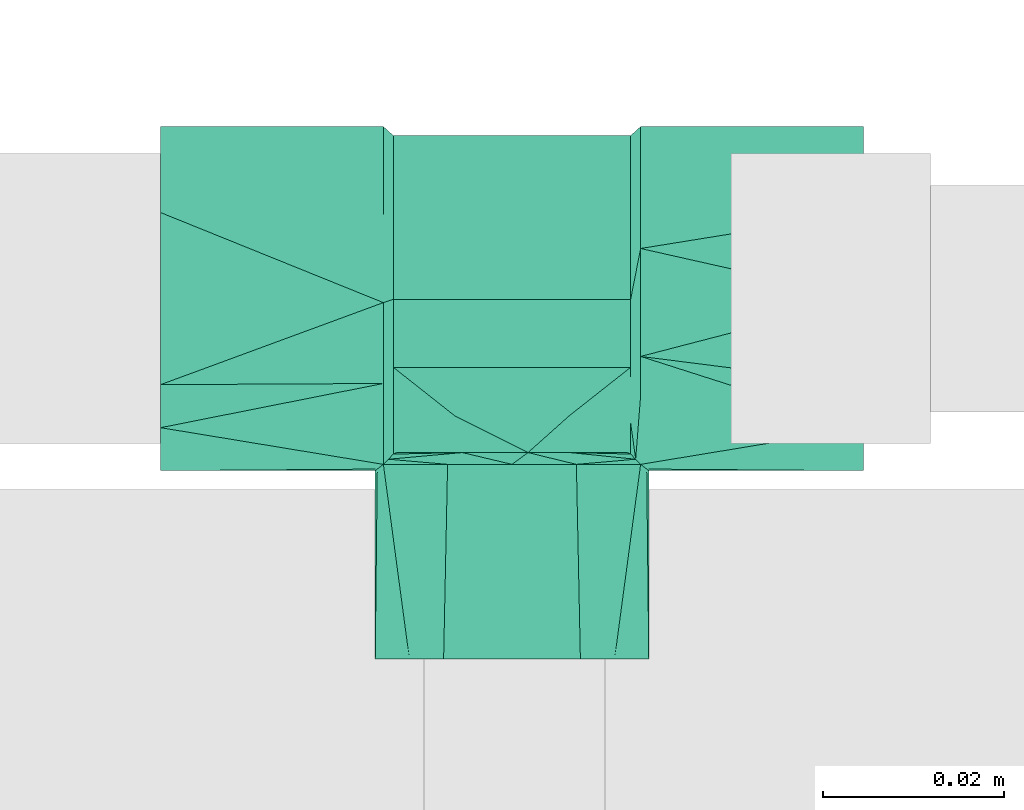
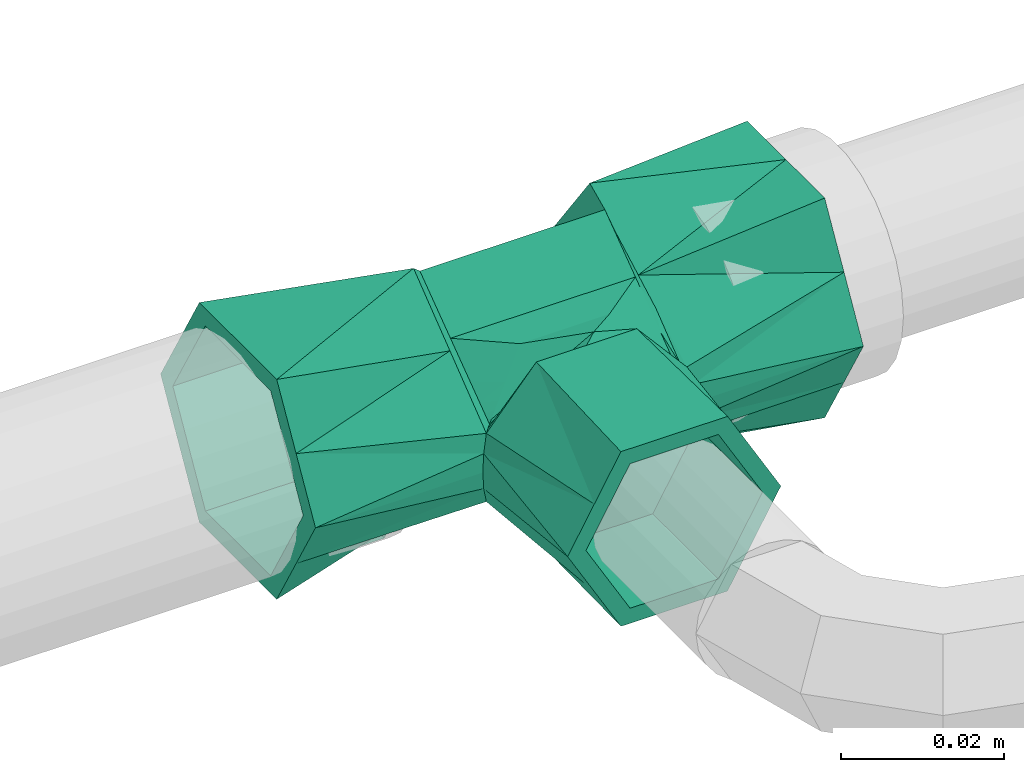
# One storey, part 138 of 166: 1 flow fitting.
"""IFC2X3 building model written with IfcOpenShell, lengths in metres."""

from ifc_helpers import new_model, entity, si_unit, converted_unit, direction, frame, origin, place, context, subcontext, project, spatial, faceted_brep, source, transform, mapped, material, type_object, type_shapes, element, save


model = new_model("IFC2X3")

# Units and contexts
model_context = context("Model", 3, precision=1e-05, world=origin(), true_north=direction((6.123233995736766e-17, 1.0)))
body_context = subcontext(model_context, "Body", "Model", "MODEL_VIEW")
ifc_project = project(units=[si_unit("LENGTHUNIT", "METRE"), converted_unit("PLANEANGLEUNIT", "DEGREE", entity("IfcPlaneAngleMeasure", 0.017453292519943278), si_unit("PLANEANGLEUNIT", "RADIAN"), dimensions=[0, 0, 0, 0, 0, 0, 0]), si_unit("AREAUNIT", "SQUARE_METRE")], contexts=[model_context])

# Site, building, storey
site_placement = place(None, origin())
site = spatial("IfcSite", under=ifc_project, at=site_placement, Name="Default", CompositionType="ELEMENT")
building_placement = place(site_placement, origin())
building = spatial("IfcBuilding", under=site, at=building_placement, Name="CASA DE ACOLHIDA PARA IDOSOS", CompositionType="ELEMENT")
storey_placement = place(building_placement, frame((0.0, 0.0, -1.7499999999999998)))
storey = spatial("IfcBuildingStorey", under=building, at=storey_placement, Name="IMPLANTAÇÃO DRENAGEM", CompositionType="ELEMENT", Elevation=-1.7499999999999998)

# Flow fitting
ifc_material = material(Name="PVC Branco")
pipe_fitting_type = type_object("IfcPipeFittingType", Name="AF_Roscavel_Te_Reducao:Standard", PredefinedType="NOTDEFINED", material=ifc_material)
shared_shape = source(origin(), body_context, "Body", "Brep", [
    faceted_brep([(-0.014199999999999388, 0.01563344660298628, -0.004544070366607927), (-0.014199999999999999, 0.018999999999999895, 0.0), (-0.0131, 0.01799999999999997, 0.0), (-0.014199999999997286, -0.01071379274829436, -0.009268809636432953), (-0.013099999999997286, -0.00862473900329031, -0.011707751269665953), (-0.01309999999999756, -0.012376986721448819, -0.008943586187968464), (-0.013099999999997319, -0.013728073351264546, -0.00794828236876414), (-0.01419999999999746, -0.0004246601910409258, -0.01490965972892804), (-0.01309999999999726, -0.004354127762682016, -0.014853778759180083), (-0.01419999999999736, -0.006383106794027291, -0.011643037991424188), (-0.013099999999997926, 0.004437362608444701, -0.013499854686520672), (-0.014199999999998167, 0.008900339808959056, -0.013632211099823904), (-0.013099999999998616, 0.008958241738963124, -0.008999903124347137), (-0.013099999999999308, 0.013479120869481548, -0.004499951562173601), (-0.01419999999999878, 0.01226689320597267, -0.009088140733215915), (-0.013653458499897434, -0.01773405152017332, -0.005279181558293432), (-0.013099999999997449, -0.014771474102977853, -0.007179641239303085), (-0.013099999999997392, -0.015968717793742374, -0.006297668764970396), (-0.013099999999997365, -0.016567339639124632, -0.005856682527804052), (-0.013099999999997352, -0.016866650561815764, -0.005636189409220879), (-0.013099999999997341, -0.017016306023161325, -0.005525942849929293), (-0.01309999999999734, -0.017165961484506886, -0.005415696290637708), (-0.014199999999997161, -0.018300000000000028, -0.005109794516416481), (-0.014199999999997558, 0.005533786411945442, -0.018176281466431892), (-0.013099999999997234, -8.35165220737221e-05, -0.017999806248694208), (-0.013099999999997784, -0.007588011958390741, -0.012471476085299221), (-0.013100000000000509, -0.0001668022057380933, 0.014208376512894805), (-0.014200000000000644, -0.004906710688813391, 0.015523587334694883), (-0.01310000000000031, -0.005833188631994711, 0.011277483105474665), (-0.014200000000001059, 0.014139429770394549, 0.0047487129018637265), (-0.013100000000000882, 0.011749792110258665, 0.00856963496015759), (-0.013100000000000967, 0.014874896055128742, 0.004284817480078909), (-0.01420000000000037, -0.009371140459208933, 0.012052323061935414), (-0.014200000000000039, -0.014747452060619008, 0.007872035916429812), (-0.013100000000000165, -0.009867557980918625, 0.009190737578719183), (-0.014200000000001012, 0.009278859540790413, 0.00949742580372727), (-0.014200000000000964, 0.004418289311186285, 0.014246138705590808), (-0.01310000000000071, 0.0054995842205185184, 0.01713926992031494), (-0.013100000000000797, 0.008624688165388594, 0.012854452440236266), (-0.013653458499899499, -0.017734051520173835, 0.005279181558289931), (-0.014200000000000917, -0.0004422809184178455, 0.018994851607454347), (-0.014199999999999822, -0.01830000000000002, 0.005109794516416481), (-0.013099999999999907, -0.01716596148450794, 0.0054156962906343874), (-0.013099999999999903, -0.01700710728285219, 0.005497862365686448), (-0.013099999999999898, -0.016848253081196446, 0.0055800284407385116), (-0.013099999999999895, -0.016530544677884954, 0.0057443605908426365), (-0.01309999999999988, -0.015895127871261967, 0.006073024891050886), (-0.01309999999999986, -0.014624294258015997, 0.006730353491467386), (-0.013099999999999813, -0.012082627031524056, 0.008045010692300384), (-0.013099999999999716, 0.010989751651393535, 0.009611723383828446), (-0.013099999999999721, -0.006999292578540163, 0.010674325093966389), (0.00953576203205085, -0.014962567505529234, 0.009221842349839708), (0.01113423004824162, -0.01598128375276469, 0.007568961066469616), (0.013100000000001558, -0.014624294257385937, 0.006730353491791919), (0.013100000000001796, -0.006999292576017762, 0.010674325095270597), (0.013100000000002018, -0.005833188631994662, 0.011277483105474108), (0.013100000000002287, -0.00016680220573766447, 0.01420837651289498), (0.013100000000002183, 0.005499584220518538, 0.017139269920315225), (0.0127326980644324, -0.017000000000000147, 0.005916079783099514), (0.012919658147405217, -0.017084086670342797, 0.005668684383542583), (0.01310000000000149, -0.01684825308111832, 0.0055800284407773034), (0.013100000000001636, -0.012082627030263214, 0.00804501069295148), (0.006338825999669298, -0.01292513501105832, 0.012527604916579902), (0.007625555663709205, -0.013745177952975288, 0.011197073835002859), (0.008912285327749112, -0.014565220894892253, 0.009866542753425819), (-0.011133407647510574, -0.015980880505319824, 0.007569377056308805), (-0.01082226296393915, -0.015782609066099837, 0.007891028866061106), (-0.009534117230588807, -0.014961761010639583, 0.009222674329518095), (-0.008911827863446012, -0.014565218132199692, 0.00986597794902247), (-0.006335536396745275, -0.0129235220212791, 0.012529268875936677), (-0.012977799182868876, -0.017110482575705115, 0.005587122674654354), (-0.012919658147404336, -0.017084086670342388, 0.005668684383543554), (0.013100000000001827, -0.00986755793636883, 0.00919073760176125), (-0.01273269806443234, -0.017000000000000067, 0.005916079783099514), (-0.011933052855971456, -0.016490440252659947, 0.00674272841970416), (0.0131000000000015, -0.01653054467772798, 0.005744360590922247), (0.011933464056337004, -0.016490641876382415, 0.006742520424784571), (0.013100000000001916, 0.008624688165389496, 0.012854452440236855), (0.013100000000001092, 0.011749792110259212, 0.00856963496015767), (0.013100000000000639, 0.014874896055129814, 0.0042848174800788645), (0.0131, 0.017999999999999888, 0.0), (0.012977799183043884, -0.01711048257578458, 0.005587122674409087), (0.01310000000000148, -0.017165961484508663, 0.005415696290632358), (0.013100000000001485, -0.017007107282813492, 0.005497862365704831), (0.01310000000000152, -0.0158951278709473, 0.006073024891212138), (0.01309999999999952, 0.012176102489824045, -0.005796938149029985), (0.013099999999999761, 0.008958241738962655, -0.008999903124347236), (0.013099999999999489, 0.006352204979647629, -0.011593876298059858), (0.013099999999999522, -8.351652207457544e-05, -0.01799980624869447), (-0.01291965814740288, -0.017084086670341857, -0.005668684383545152), (-0.012977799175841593, -0.017110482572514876, -0.005587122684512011), (0.013099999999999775, -0.007588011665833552, -0.012471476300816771), (0.0063388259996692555, -0.012925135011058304, -0.012527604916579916), (-0.006335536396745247, -0.01292352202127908, -0.012529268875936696), (0.013099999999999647, -0.005186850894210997, -0.014240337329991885), (-0.01273269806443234, -0.017000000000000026, -0.005916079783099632), (-0.011933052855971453, -0.01649044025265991, -0.006742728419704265), (0.009535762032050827, -0.014962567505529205, -0.009221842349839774), (0.013099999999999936, -0.012376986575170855, -0.008943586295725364), (0.013100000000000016, -0.014771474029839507, -0.007179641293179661), (0.013100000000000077, -0.016567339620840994, -0.005856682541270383), (0.0127326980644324, -0.017000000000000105, -0.005916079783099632), (0.011933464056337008, -0.01649064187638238, -0.006742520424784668), (0.008912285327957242, -0.01456522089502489, -0.009866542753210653), (0.013099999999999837, -0.010290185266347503, -0.010480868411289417), (0.012977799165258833, -0.017110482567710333, -0.005587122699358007), (0.012919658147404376, -0.017084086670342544, -0.005668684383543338), (0.013100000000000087, -0.016866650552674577, -0.005636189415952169), (0.01310000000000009, -0.017016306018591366, -0.005525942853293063), (0.013100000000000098, -0.01716596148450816, -0.0054156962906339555), (0.011134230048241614, -0.015981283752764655, -0.007568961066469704), (0.010822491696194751, -0.01578261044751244, -0.00789131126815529), (-0.007623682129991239, -0.01374437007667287, -0.011197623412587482), (-0.008911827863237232, -0.01456521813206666, -0.00986597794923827), (-0.009534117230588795, -0.014961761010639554, -0.009222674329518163), (-0.011133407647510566, -0.01598088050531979, -0.007569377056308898), (0.013100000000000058, -0.01596871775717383, -0.006297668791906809), (0.014200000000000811, 0.01226689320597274, 0.009088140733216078), (0.014200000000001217, 0.008900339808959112, 0.013632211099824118), (0.014200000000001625, 0.005533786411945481, 0.018176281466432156), (0.014200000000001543, -0.00312758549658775, 0.013427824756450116), (0.014200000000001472, -0.010713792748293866, 0.009268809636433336), (0.013653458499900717, -0.017734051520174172, 0.005279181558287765), (0.014200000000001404, -0.01829999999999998, 0.005109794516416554), (0.014199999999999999, 0.019, 0.0), (0.014200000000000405, 0.01563344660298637, 0.004544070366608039), (0.014200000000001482, -0.0063831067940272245, 0.011643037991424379), (0.014199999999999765, -0.00044228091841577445, -0.018994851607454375), (0.014199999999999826, -0.004906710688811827, -0.015523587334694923), (0.01419999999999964, 0.009278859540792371, -0.009497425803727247), (0.014199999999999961, -0.0147474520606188, -0.007872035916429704), (0.01420000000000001, -0.018299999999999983, -0.005109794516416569), (0.013653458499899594, -0.017734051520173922, -0.00527918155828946), (0.014199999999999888, -0.009371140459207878, -0.01205232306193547), (0.014199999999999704, 0.0044182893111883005, -0.01424613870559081), (0.014199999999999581, 0.014139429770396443, -0.004748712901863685), (-0.0388000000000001, -0.009500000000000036, -0.016454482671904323), (-0.0388000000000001, -0.016, 0.0), (-0.03879999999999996, -0.011857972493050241, -0.007174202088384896), (-0.0388000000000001, -0.014250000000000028, -0.008227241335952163), (-0.0388000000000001, -0.008000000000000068, -0.01385640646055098), (-0.0388000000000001, 0.0, -0.013856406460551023), (-0.0388000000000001, 0.007999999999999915, -0.013856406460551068), (-0.0388000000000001, 0.0, -0.01645448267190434), (-0.0388000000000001, -0.01900000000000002, 0.0), (-0.0388000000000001, -0.012000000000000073, 0.006928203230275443), (-0.0388000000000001, -0.008000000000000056, 0.013856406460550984), (-0.0388000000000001, -0.014249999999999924, 0.008227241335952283), (-0.0388000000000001, -0.00949999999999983, 0.01645448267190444), (-0.0388000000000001, 0.0, 0.013856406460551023), (-0.0388000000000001, 0.007999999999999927, 0.01385640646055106), (-0.0388000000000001, 0.0, 0.01645448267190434), (-0.0388000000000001, 0.009500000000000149, 0.016454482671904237), (-0.0388000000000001, 0.01549204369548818, 0.006075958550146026), (-0.0388000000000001, 0.01899999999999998, 0.0), (-0.03879999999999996, 0.01185797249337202, 0.007174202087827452), (-0.0388000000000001, 0.016, 0.0), (-0.0388000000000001, 0.014249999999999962, -0.0082272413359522), (-0.0388000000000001, 0.009499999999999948, -0.016454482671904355), (-0.0388000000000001, 0.011999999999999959, -0.006928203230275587), (-0.014872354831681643, -0.018819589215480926, 0.0026120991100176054), (-0.015099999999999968, -0.01900000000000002, 0.0), (0.0388000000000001, -0.019, 0.0), (0.014872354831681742, -0.018819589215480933, 0.0026120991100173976), (0.015100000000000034, -0.019, 0.0), (0.0388000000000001, 0.014249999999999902, 0.008227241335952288), (0.0388000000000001, 0.019, 0.0), (-0.014872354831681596, -0.018819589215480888, -0.0026120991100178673), (0.014872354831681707, -0.018819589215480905, -0.0026120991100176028), (0.0388000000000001, 0.015492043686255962, -0.006075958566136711), (0.0388000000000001, 0.009500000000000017, -0.016454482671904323), (0.0388000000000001, 0.015999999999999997, 0.0), (0.038800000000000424, 0.011857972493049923, -0.007174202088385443), (0.0388000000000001, 0.008000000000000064, -0.01385640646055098), (0.0388000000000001, 0.0, -0.013856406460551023), (0.0388000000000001, -0.007999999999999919, -0.013856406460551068), (0.0388000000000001, 0.0, -0.01645448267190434), (0.0388000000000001, 0.012000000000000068, 0.006928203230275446), (0.0388000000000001, 0.00800000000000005, 0.013856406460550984), (0.0388000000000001, 0.00949999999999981, 0.01645448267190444), (0.0388000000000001, 0.0, 0.013856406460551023), (0.0388000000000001, -0.00799999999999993, 0.01385640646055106), (0.0388000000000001, 0.0, 0.01645448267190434), (0.0388000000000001, -0.00950000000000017, 0.016454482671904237), (0.0388000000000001, -0.014250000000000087, 0.008227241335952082), (0.038800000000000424, -0.01185797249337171, 0.007174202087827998), (0.0388000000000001, -0.016000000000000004, 0.0), (0.0388000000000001, -0.014249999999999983, -0.008227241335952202), (0.0388000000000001, -0.009499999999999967, -0.016454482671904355), (0.0388000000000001, -0.011999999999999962, -0.006928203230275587), (-0.02269999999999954, -0.016, 0.0), (-0.02269999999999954, -0.01185797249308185, 0.0071742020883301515), (-0.02269999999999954, -0.008000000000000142, 0.013856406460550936), (-0.02269999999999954, 0.0, 0.013856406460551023), (-0.02269999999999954, 0.007999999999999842, 0.01385640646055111), (-0.02269999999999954, 0.01199999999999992, 0.006928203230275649), (-0.02269999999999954, 0.016, 0.0), (-0.02269999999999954, 0.011857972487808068, -0.007174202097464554), (-0.02269999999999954, 0.008000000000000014, -0.01385640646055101), (-0.022699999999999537, 0.0, -0.01385640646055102), (-0.02269999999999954, -0.007999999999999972, -0.013856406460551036), (-0.02269999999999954, -0.011999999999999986, -0.006928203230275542), (0.022700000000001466, -0.016000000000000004, 0.0), (0.022700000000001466, -0.011999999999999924, 0.006928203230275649), (0.022700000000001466, -0.007999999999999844, 0.01385640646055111), (0.022700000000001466, 0.0, 0.013856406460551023), (0.022700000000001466, 0.00800000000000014, 0.013856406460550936), (0.022700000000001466, 0.011857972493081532, 0.007174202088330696), (0.022700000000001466, 0.015999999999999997, 0.0), (0.022700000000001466, 0.011999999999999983, -0.006928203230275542), (0.022700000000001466, 0.00799999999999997, -0.013856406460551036), (0.022700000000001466, 0.0, -0.013856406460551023), (0.022700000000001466, -0.008000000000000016, -0.01385640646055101), (0.022700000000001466, -0.011857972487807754, -0.007174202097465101), (0.01250000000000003, -0.02369999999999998, 0.0), (0.006250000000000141, -0.023699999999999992, 0.010825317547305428), (-0.006249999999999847, -0.02370000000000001, 0.010825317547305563), (-0.012499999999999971, -0.023700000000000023, 0.0), (-0.006249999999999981, -0.02370000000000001, -0.010825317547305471), (0.006250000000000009, -0.023699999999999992, -0.01082531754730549), (0.012500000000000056, -0.03979999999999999, 0.0), (0.006250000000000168, -0.039799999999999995, 0.010825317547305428), (-0.00624999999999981, -0.039800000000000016, 0.01082531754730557), (-0.012499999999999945, -0.03980000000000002, 0.0), (-0.006249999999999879, -0.039800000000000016, -0.010825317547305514), (0.006250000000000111, -0.039799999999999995, -0.010825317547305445), (-0.0017679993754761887, -0.01700000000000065, -0.013928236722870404), (-0.006407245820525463, -0.017000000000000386, -0.010538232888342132), (0.009386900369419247, -0.01700000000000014, -0.007764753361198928), (0.006041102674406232, -0.017000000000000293, -0.009613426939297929), (0.005482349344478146, -0.017000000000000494, -0.009922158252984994), (0.0017662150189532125, -0.016999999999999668, 0.013928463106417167), (0.006407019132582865, -0.016999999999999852, 0.010537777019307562), (-0.009386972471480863, -0.01699999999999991, 0.007764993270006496), (-0.00604124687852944, -0.016999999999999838, 0.009613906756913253), (-0.005483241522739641, -0.01699999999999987, 0.009922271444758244), (1.2383427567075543e-06, -0.018300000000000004, 0.013321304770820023), (0.007111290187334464, -0.018299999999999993, 0.013320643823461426), (-0.007108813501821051, -0.018300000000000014, 0.013321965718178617), (1.2383427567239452e-06, -0.01830000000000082, -0.013321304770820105), (-0.007108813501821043, -0.018300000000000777, -0.013321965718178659), (0.007111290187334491, -0.018300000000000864, -0.01332064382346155), (0.007550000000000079, -0.039799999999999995, -0.013076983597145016), (0.011325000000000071, -0.03979999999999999, -0.00653849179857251), (0.0, -0.0398, -0.013076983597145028), (0.015100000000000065, -0.03979999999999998, 0.0), (0.011324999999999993, -0.03979999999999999, 0.006538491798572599), (0.007549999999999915, -0.039799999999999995, 0.01307698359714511), (0.0, -0.0398, 0.013076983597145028), (-0.007550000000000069, -0.039800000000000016, 0.013076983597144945), (-0.011325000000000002, -0.03980000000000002, 0.006538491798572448), (-0.015099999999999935, -0.03980000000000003, 0.0), (-0.011324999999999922, -0.03980000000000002, -0.006538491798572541), (-0.007549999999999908, -0.039800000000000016, -0.01307698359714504)], [[[0, 1, 2]], [[3, 4, 5, 6]], [[7, 8, 9]], [[10, 11, 12]], [[13, 14, 0]], [[15, 6, 16, 17, 18, 19, 20, 21]], [[4, 3, 9]], [[3, 6, 15]], [[0, 2, 13]], [[15, 22, 3]], [[23, 10, 24]], [[12, 14, 13]], [[8, 7, 24]], [[9, 8, 25, 4]], [[11, 10, 23]], [[11, 14, 12]], [[7, 23, 24]], [[26, 27, 28]], [[29, 30, 31]], [[31, 1, 29]], [[31, 2, 1]], [[27, 32, 28]], [[33, 34, 32]], [[29, 35, 30]], [[36, 37, 38]], [[34, 33, 39]], [[40, 37, 36]], [[33, 41, 39]], [[39, 42, 43, 44, 45, 46, 47, 48, 34]], [[35, 38, 49, 30]], [[26, 40, 27]], [[26, 37, 40]], [[36, 38, 35]], [[32, 34, 50, 28]], [[51, 52, 53]], [[50, 54, 55, 56, 57, 37, 26, 28]], [[58, 59, 60]], [[61, 62, 63, 64, 51]], [[47, 65, 66, 67]], [[48, 67, 68, 69]], [[69, 50, 34, 48]], [[70, 71, 44, 43, 42]], [[62, 61, 72, 54]], [[45, 73, 74]], [[50, 69, 54]], [[58, 75, 76]], [[73, 44, 71]], [[2, 31, 30, 49, 38, 37, 57, 77, 78, 79, 80]], [[45, 44, 73]], [[62, 54, 69]], [[60, 75, 58]], [[67, 48, 47]], [[59, 81, 82, 83, 60]], [[84, 76, 75]], [[65, 47, 46]], [[61, 51, 53]], [[46, 74, 65]], [[53, 52, 84]], [[45, 74, 46]], [[84, 52, 76]], [[12, 13, 2, 80, 85, 86, 87, 88, 24, 10]], [[89, 90, 21, 20, 19]], [[91, 92, 93]], [[93, 25, 91]], [[24, 88, 94, 91, 25, 8]], [[95, 18, 96]], [[17, 96, 18]], [[97, 98, 99]], [[100, 101, 102]], [[98, 97, 103, 92]], [[92, 91, 104, 98]], [[105, 106, 107, 108, 109]], [[99, 110, 111, 97]], [[5, 93, 112, 113, 114]], [[114, 115, 16]], [[95, 89, 19]], [[19, 18, 95]], [[93, 5, 4, 25]], [[101, 107, 106]], [[100, 107, 101]], [[110, 99, 116]], [[114, 16, 6, 5]], [[116, 102, 110]], [[16, 115, 17]], [[100, 102, 116]], [[17, 115, 96]], [[117, 77, 118]], [[56, 119, 57]], [[57, 118, 77]], [[119, 118, 57]], [[119, 56, 120]], [[121, 55, 54, 72]], [[122, 72, 61, 53, 84, 75, 60, 83, 82]], [[121, 122, 123]], [[124, 80, 79]], [[122, 121, 72]], [[125, 79, 78]], [[78, 117, 125]], [[56, 55, 120]], [[55, 121, 126, 120]], [[124, 79, 125]], [[77, 117, 78]], [[127, 128, 88]], [[129, 87, 86, 85]], [[130, 131, 132]], [[130, 104, 133]], [[88, 134, 127]], [[80, 135, 85]], [[132, 109, 108, 107, 100, 116, 99, 98, 104]], [[133, 104, 91, 94]], [[134, 88, 87]], [[94, 128, 133]], [[87, 129, 134]], [[104, 130, 132]], [[88, 128, 94]], [[135, 80, 124]], [[135, 129, 85]], [[136, 137, 138]], [[137, 136, 139]], [[136, 138, 140]], [[136, 140, 141]], [[136, 141, 142]], [[142, 143, 136]], [[137, 139, 144]], [[144, 145, 137]], [[144, 146, 145]], [[146, 144, 147]], [[146, 147, 148]], [[148, 149, 146]], [[148, 150, 149]], [[150, 148, 151]], [[150, 151, 152]], [[150, 152, 153]], [[150, 153, 154]], [[154, 155, 150]], [[154, 156, 155]], [[156, 154, 157]], [[156, 157, 158]], [[158, 142, 159]], [[142, 158, 143]], [[158, 159, 156]], [[35, 153, 152]], [[40, 152, 151, 148]], [[153, 35, 29, 1]], [[147, 32, 148]], [[152, 40, 36, 35]], [[160, 144, 161]], [[162, 163, 164]], [[1, 154, 153]], [[165, 166, 124]], [[160, 41, 147]], [[144, 160, 147]], [[148, 32, 27, 40]], [[147, 41, 33, 32]], [[139, 9, 3, 22]], [[136, 9, 139]], [[167, 139, 22]], [[144, 167, 161]], [[168, 162, 164]], [[167, 144, 139]], [[143, 158, 23]], [[143, 9, 136]], [[157, 154, 1]], [[124, 166, 169]], [[157, 1, 0, 14]], [[158, 14, 11, 23]], [[143, 23, 7, 9]], [[14, 158, 157]], [[170, 171, 172]], [[171, 170, 169]], [[170, 172, 173]], [[170, 173, 174]], [[170, 174, 175]], [[175, 176, 170]], [[171, 169, 166]], [[166, 177, 171]], [[166, 178, 177]], [[178, 166, 165]], [[178, 165, 179]], [[179, 180, 178]], [[179, 181, 180]], [[181, 179, 182]], [[181, 182, 183]], [[181, 183, 184]], [[181, 184, 162]], [[162, 185, 181]], [[162, 186, 185]], [[186, 162, 187]], [[186, 187, 188]], [[188, 175, 189]], [[175, 188, 176]], [[188, 189, 186]], [[184, 126, 121, 123]], [[183, 126, 184]], [[163, 184, 123]], [[163, 162, 184]], [[182, 179, 119]], [[182, 126, 183]], [[165, 124, 125, 117]], [[179, 117, 118, 119]], [[182, 119, 120, 126]], [[117, 179, 165]], [[129, 169, 170]], [[127, 170, 176, 188]], [[169, 129, 135, 124]], [[187, 133, 188]], [[170, 127, 134, 129]], [[168, 131, 187]], [[162, 168, 187]], [[188, 133, 128, 127]], [[187, 131, 130, 133]], [[190, 191, 192, 193, 194, 195, 196, 197, 198, 199, 200, 201]], [[192, 191, 190, 137, 145, 146]], [[186, 202, 203, 204, 181, 185]], [[194, 193, 192, 146, 149, 150]], [[204, 205, 206, 178, 180, 181]], [[156, 196, 195, 194, 150, 155]], [[206, 207, 208, 171, 177, 178]], [[198, 197, 196, 156, 159, 142]], [[171, 208, 209, 210, 173, 172]], [[200, 199, 198, 142, 141, 140]], [[210, 211, 212, 175, 174, 173]], [[137, 190, 201, 200, 140, 138]], [[212, 213, 202, 186, 189, 175]], [[208, 207, 206, 205, 204, 203, 202, 213, 212, 211, 210, 209]], [[214, 215, 216, 217, 218, 219]], [[220, 221, 215, 214]], [[221, 222, 216, 215]], [[222, 223, 217, 216]], [[223, 224, 218, 217]], [[224, 225, 219, 218]], [[225, 220, 214, 219]], [[226, 227, 95, 96, 115, 114, 113, 112, 93]], [[92, 103, 97, 111, 110, 102, 101, 228, 229, 230, 226]], [[92, 226, 93]], [[231, 232, 58, 76, 52, 51, 64, 63, 62]], [[69, 68, 67, 66, 65, 74, 73, 233, 234, 235, 231]], [[69, 231, 62]], [[42, 39, 235]], [[235, 236, 231]], [[232, 82, 81, 59]], [[123, 122, 237]], [[236, 237, 231]], [[82, 232, 122]], [[237, 122, 232]], [[71, 235, 234, 233, 73]], [[235, 71, 70, 42]], [[39, 238, 235]], [[236, 235, 238]], [[39, 41, 238]], [[59, 58, 232]], [[237, 232, 231]], [[109, 132, 230]], [[230, 239, 226]], [[227, 21, 90, 89]], [[22, 15, 240]], [[239, 240, 226]], [[21, 227, 15]], [[240, 15, 227]], [[106, 230, 229, 228, 101]], [[230, 106, 105, 109]], [[132, 241, 230]], [[239, 230, 241]], [[132, 131, 241]], [[89, 95, 227]], [[240, 227, 226]], [[242, 220, 225]], [[220, 242, 243]], [[242, 225, 224]], [[224, 244, 242]], [[220, 243, 245]], [[221, 220, 245]], [[221, 245, 246]], [[221, 246, 247]], [[221, 247, 222]], [[222, 247, 248]], [[222, 248, 249]], [[222, 249, 250]], [[222, 250, 251]], [[251, 223, 222]], [[223, 251, 252]], [[223, 252, 253]], [[253, 224, 223]], [[224, 253, 244]], [[251, 160, 161]], [[249, 238, 250]], [[245, 164, 163]], [[238, 249, 248]], [[251, 250, 160]], [[250, 238, 41]], [[237, 248, 247]], [[245, 163, 246]], [[123, 246, 163]], [[237, 247, 246]], [[237, 246, 123]], [[160, 250, 41]], [[248, 237, 236, 238]], [[245, 168, 164]], [[242, 241, 243]], [[253, 240, 244]], [[251, 161, 167]], [[245, 243, 168]], [[243, 241, 131]], [[244, 240, 239, 241]], [[251, 167, 252]], [[22, 252, 167]], [[240, 253, 252]], [[240, 252, 22]], [[168, 243, 131]], [[242, 244, 241]]]),
])
type_shapes(pipe_fitting_type, [shared_shape])
flow_fitting_placement = place(storey_placement, frame((20.0090511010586, 49.254942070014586, -0.19999999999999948), z_axis=(0.0, 0.0, -1.0), x_axis=(-1.0, 0.0, 0.0)))
element("IfcFlowFitting", 1, at=flow_fitting_placement, inside=storey, type_object=pipe_fitting_type, material=ifc_material, Name="AF_Roscavel_Te_Reducao:Standard", ObjectType="AF_Roscavel_Te_Reducao:Standard", context=body_context, shape_type="MappedRepresentation", body=[
    mapped(shared_shape, transform((0.0, 0.0, 0.0), scale=1.0)),
])

save(model, "model.ifc")
